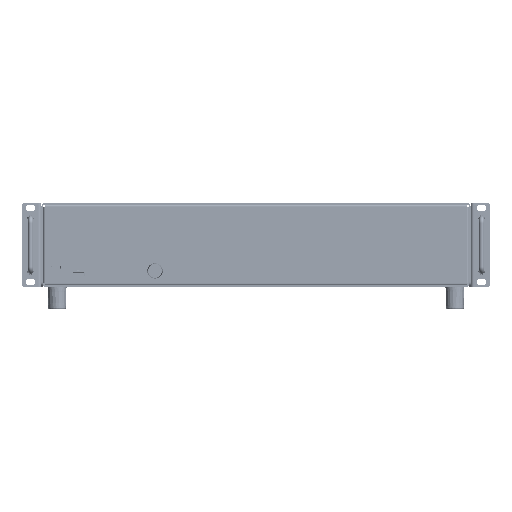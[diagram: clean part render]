
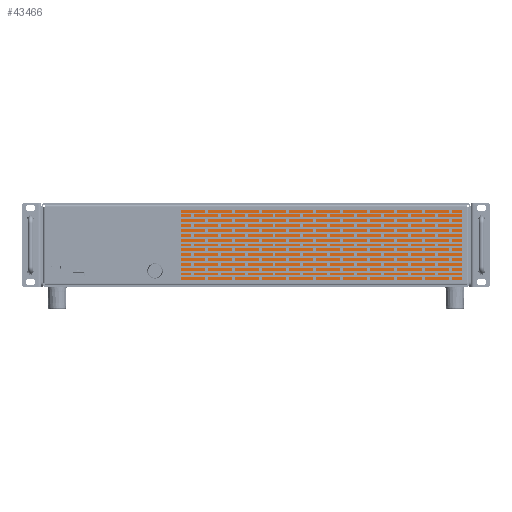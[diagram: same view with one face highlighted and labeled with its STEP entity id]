
A CAD part, front view. The second image highlights one B-rep face of the part: STEP entity #43466.
In plain terms, the highlighted planar face has unit normal (0, -1, 0).
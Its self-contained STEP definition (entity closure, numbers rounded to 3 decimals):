
#43466=ADVANCED_FACE('',(#89186),#89187,.T.);
#89186=FACE_OUTER_BOUND('',#153460,.T.);
#89187=PLANE('',#153461);
#153460=EDGE_LOOP('',(#278851,#278852,#278853,#278854,#278855,#278856));
#153461=AXIS2_PLACEMENT_3D('',#278857,#278858,#278859);
#278851=ORIENTED_EDGE('',*,*,#333094,.T.);
#278852=ORIENTED_EDGE('',*,*,#333095,.T.);
#278853=ORIENTED_EDGE('',*,*,#333096,.T.);
#278854=ORIENTED_EDGE('',*,*,#333097,.T.);
#278855=ORIENTED_EDGE('',*,*,#333098,.T.);
#278856=ORIENTED_EDGE('',*,*,#333099,.T.);
#278857=CARTESIAN_POINT('',(245.95,3.5,42.5));
#278858=DIRECTION('',(0.0,-1.0,0.0));
#278859=DIRECTION('',(1.0,0.0,0.0));
#333094=EDGE_CURVE('',#410450,#410451,#410452,.T.);
#333095=EDGE_CURVE('',#410451,#410453,#410454,.T.);
#333096=EDGE_CURVE('',#410453,#410455,#410456,.T.);
#333097=EDGE_CURVE('',#410455,#410457,#410458,.T.);
#333098=EDGE_CURVE('',#410457,#410459,#410460,.T.);
#333099=EDGE_CURVE('',#410459,#410450,#410461,.T.);
#410450=VERTEX_POINT('',#522276);
#410451=VERTEX_POINT('',#522277);
#410452=LINE('',#522278,#522279);
#410453=VERTEX_POINT('',#522280);
#410454=LINE('',#522281,#522282);
#410455=VERTEX_POINT('',#522283);
#410456=LINE('',#522284,#522285);
#410457=VERTEX_POINT('',#522286);
#410458=LINE('',#522287,#522288);
#410459=VERTEX_POINT('',#522289);
#410460=LINE('',#522290,#522291);
#410461=LINE('',#522292,#522293);
#522276=CARTESIAN_POINT('',(433.9,3.5,61.45));
#522277=CARTESIAN_POINT('',(433.9,3.5,80.5));
#522278=CARTESIAN_POINT('',(433.9,3.5,42.5));
#522279=VECTOR('',#575103,1.0);
#522280=CARTESIAN_POINT('',(92.95,3.5,80.5));
#522281=CARTESIAN_POINT('',(245.95,3.5,80.5));
#522282=VECTOR('',#575104,1.0);
#522283=CARTESIAN_POINT('',(92.95,3.5,4.5));
#522284=CARTESIAN_POINT('',(92.95,3.5,42.5));
#522285=VECTOR('',#575105,1.0);
#522286=CARTESIAN_POINT('',(433.9,3.5,4.5));
#522287=CARTESIAN_POINT('',(245.95,3.5,4.5));
#522288=VECTOR('',#575106,1.0);
#522289=CARTESIAN_POINT('',(433.9,3.5,25.05));
#522290=CARTESIAN_POINT('',(433.9,3.5,42.5));
#522291=VECTOR('',#575107,1.0);
#522292=CARTESIAN_POINT('',(433.9,3.5,42.5));
#522293=VECTOR('',#575108,1.0);
#575103=DIRECTION('',(0.0,0.0,1.0));
#575104=DIRECTION('',(-1.0,0.0,0.0));
#575105=DIRECTION('',(0.0,0.0,-1.0));
#575106=DIRECTION('',(1.0,0.0,0.0));
#575107=DIRECTION('',(0.0,0.0,1.0));
#575108=DIRECTION('',(0.0,0.0,1.0));
